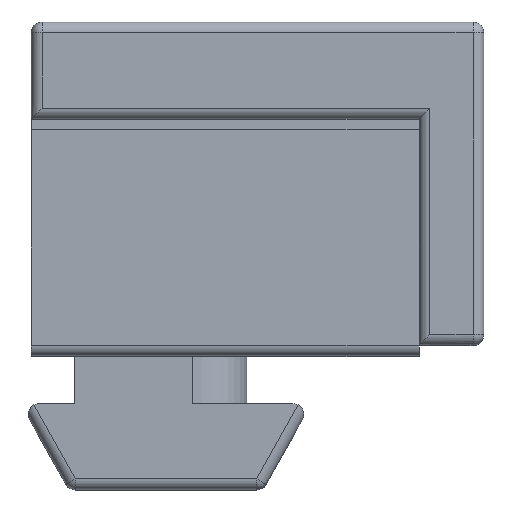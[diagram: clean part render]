
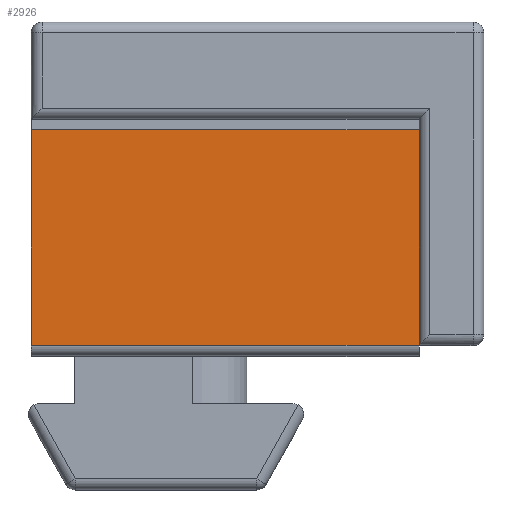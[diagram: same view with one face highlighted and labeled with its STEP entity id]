
A CAD part, top view. The second image highlights one B-rep face of the part: STEP entity #2926.
In plain terms, the highlighted planar face has unit normal (0, 0, 1).
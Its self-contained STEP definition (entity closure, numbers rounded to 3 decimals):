
#16 = DIRECTION ( 'NONE',  ( 0., 1., 0. ) ) ;
#88 = CARTESIAN_POINT ( 'NONE',  ( 18., 10.5, 15. ) ) ;
#150 = ORIENTED_EDGE ( 'NONE', *, *, #409, .T. ) ;
#197 = DIRECTION ( 'NONE',  ( 1., 0., 0. ) ) ;
#401 = CARTESIAN_POINT ( 'NONE',  ( 0., 0.5, 15. ) ) ;
#409 = EDGE_CURVE ( 'NONE', #981, #4102, #1861, .T. ) ;
#415 = CARTESIAN_POINT ( 'NONE',  ( 18., 0., 15. ) ) ;
#656 = VECTOR ( 'NONE', #16, 1000. ) ;
#786 = EDGE_CURVE ( 'NONE', #3878, #1855, #2980, .T. ) ;
#893 = EDGE_CURVE ( 'NONE', #981, #1855, #1772, .T. ) ;
#981 = VERTEX_POINT ( 'NONE', #3522 ) ;
#1078 = PLANE ( 'NONE',  #3498 ) ;
#1142 = VECTOR ( 'NONE', #2744, 1000. ) ;
#1159 = LINE ( 'NONE', #1459, #2741 ) ;
#1446 = CARTESIAN_POINT ( 'NONE',  ( 18., 10.5, 15. ) ) ;
#1459 = CARTESIAN_POINT ( 'NONE',  ( 0., 0.5, 15. ) ) ;
#1509 = DIRECTION ( 'NONE',  ( 0., -1., 0. ) ) ;
#1772 = LINE ( 'NONE', #1446, #1142 ) ;
#1855 = VERTEX_POINT ( 'NONE', #88 ) ;
#1861 = LINE ( 'NONE', #3829, #2366 ) ;
#1988 = EDGE_CURVE ( 'NONE', #4102, #3878, #1159, .T. ) ;
#2336 = ORIENTED_EDGE ( 'NONE', *, *, #893, .F. ) ;
#2366 = VECTOR ( 'NONE', #1509, 1000. ) ;
#2741 = VECTOR ( 'NONE', #197, 1000. ) ;
#2744 = DIRECTION ( 'NONE',  ( 1., 0., 0. ) ) ;
#2926 = ADVANCED_FACE ( 'NONE', ( #2979 ), #1078, .F. ) ;
#2979 = FACE_OUTER_BOUND ( 'NONE', #3076, .T. ) ;
#2980 = LINE ( 'NONE', #415, #656 ) ;
#3076 = EDGE_LOOP ( 'NONE', ( #150, #3887, #3489, #2336 ) ) ;
#3308 = DIRECTION ( 'NONE',  ( -1., 0., 0. ) ) ;
#3489 = ORIENTED_EDGE ( 'NONE', *, *, #786, .T. ) ;
#3498 = AXIS2_PLACEMENT_3D ( 'NONE', #3620, #3983, #3308 ) ;
#3522 = CARTESIAN_POINT ( 'NONE',  ( 0., 10.5, 15. ) ) ;
#3620 = CARTESIAN_POINT ( 'NONE',  ( 0., 13.5, 15. ) ) ;
#3829 = CARTESIAN_POINT ( 'NONE',  ( 0., 0., 15. ) ) ;
#3878 = VERTEX_POINT ( 'NONE', #4011 ) ;
#3887 = ORIENTED_EDGE ( 'NONE', *, *, #1988, .T. ) ;
#3983 = DIRECTION ( 'NONE',  ( 0., 0., -1. ) ) ;
#4011 = CARTESIAN_POINT ( 'NONE',  ( 18., 0.5, 15. ) ) ;
#4102 = VERTEX_POINT ( 'NONE', #401 ) ;
